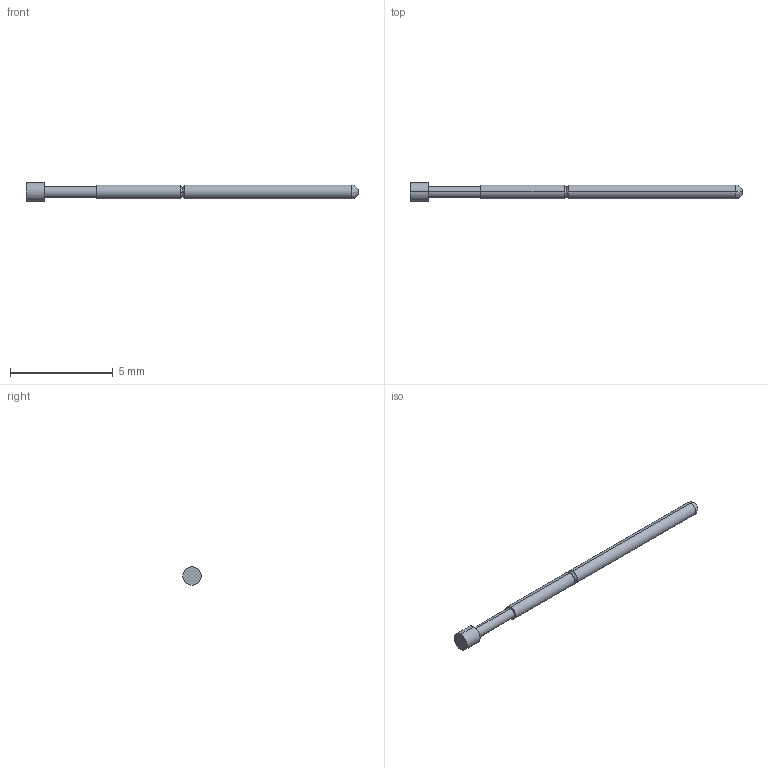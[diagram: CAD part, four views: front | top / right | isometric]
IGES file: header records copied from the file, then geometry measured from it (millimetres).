
Start section: SolidWorks IGES file using analytic representation for surfaces
Global section: file name: \\CODA-VM-SBS\RedirectedFolders\georged\My Documents\CODA CAD FILES\GENERAL PURPOSE TEST PROBES\SHORT REACH TEST PROBES\PA1\PA1F.IGS; native system: SolidWorks 2022; preprocessor: SolidWorks 2022; author: GeorgeD; date: 240229.111831; units: millimetre
Bounding box: 16.13 x 0.89 x 0.89 mm (x, y, z)
Surface area: 35.2 mm2 (no closed solid volume)
Topology: 0 solids, 0 shells, 18 faces, 160 edges, 160 vertices
Faces by surface type: bspline 10, revolution 8
